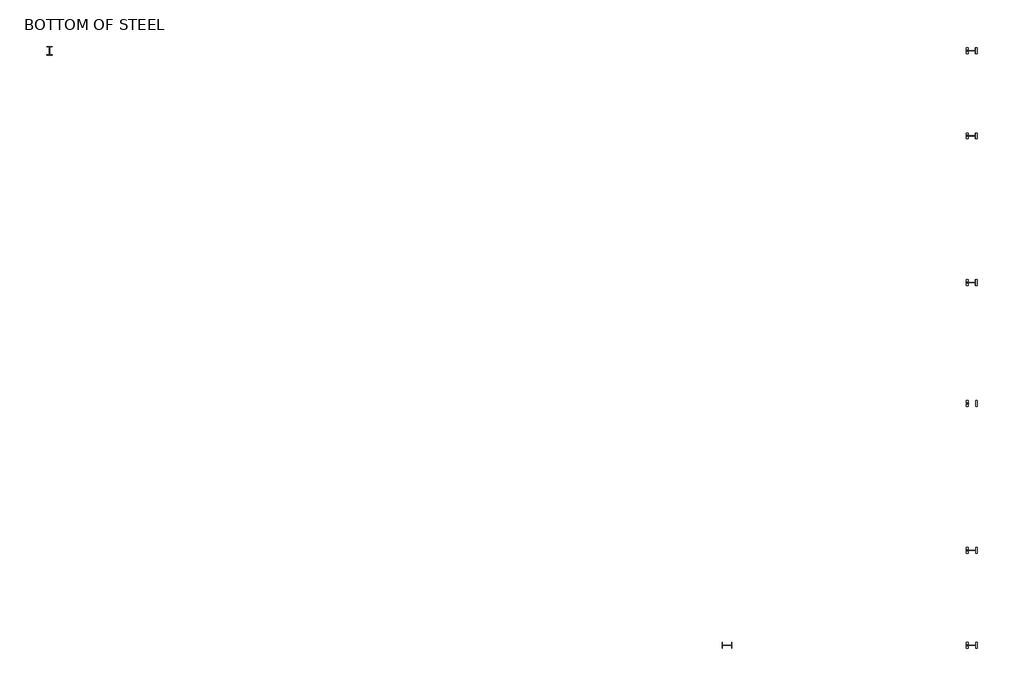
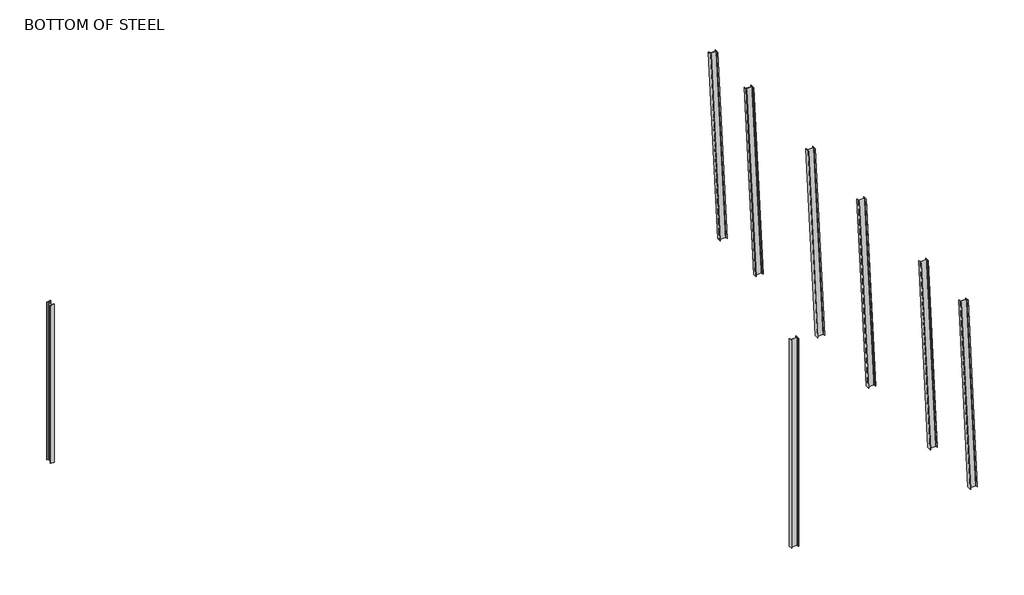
# One storey: 8 columns.
"""IFC4 building model written with IfcOpenShell, lengths in millimetres."""

from ifc_helpers import new_model, si_unit, point, frame, frame_2d, origin, place, context, project, spatial, polyline, circle_curve, ellipse_curve, trimmed, segment, composite_curve, outline, extrude, transform, mapped, element, save
from ifc_brep_helpers import plane_surface, revolved_surface, advanced_brep
from components import w_wide_flange_column_w12x40_d1cfc84d

model = new_model("IFC4")

# Units and contexts
model_context = context("Model", 3, world=origin())
ifc_project = project(units=[si_unit("LENGTHUNIT", "METRE", prefix="MILLI")], contexts=[model_context])

# Site, building, storey
site = spatial("IfcSite", under=ifc_project)
building = spatial("IfcBuilding", under=site)
storey = spatial("IfcBuildingStorey", under=building, Name="BOTTOM OF STEEL", Elevation=30302.2)

# Columns
placement = place(None, origin())
w_wide_flange_column_w12x40_shape = w_wide_flange_column_w12x40_d1cfc84d(model_context)
element("IfcColumn", 1, ObjectType="W-Wide Flange-Column : W12X40", at=placement, inside=storey, context=model_context, shape_type="MappedRepresentation", body=[
    mapped(w_wide_flange_column_w12x40_shape, transform((-10327.3204607, 7843.2445005, 0.0), x_axis=(-1.0000000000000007, 0.0, 0.0), y_axis=(0.0, -1.0000000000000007, 0.0), z_axis=(0.0, 0.0, 1.0))),
])
element("IfcColumn", 2, ObjectType="W-Wide Flange-Column : W14X43", at=placement, inside=storey, context=model_context, shape_type="SweptSolid", body=[
    extrude(outline(composite_curve([segment(polyline([(13394.2455549, -13038.8297182), (13407.7393049, -13038.8297182), (13407.7393049, -13115.0793276)]), True, "CONTINUOUS"), segment(trimmed(circle_curve(frame_2d((13429.1705549, -13115.0793276)), 21.43125), [point((13407.7393049, -13115.0793276))], [point((13429.1705549, -13136.5105776))], True, "CARTESIAN"), True, "CONTINUOUS"), segment(polyline([(13429.1705549, -13136.5105776), (13706.2885237, -13136.5105776)]), True, "CONTINUOUS"), segment(trimmed(circle_curve(frame_2d((13706.2885237, -13115.0793276)), 21.43125), [point((13706.2885237, -13136.5105776))], [point((13727.7197737, -13115.0793276))], True, "CARTESIAN"), True, "CONTINUOUS"), segment(polyline([(13727.7197737, -13115.0793276), (13727.7197737, -13038.8297182), (13741.2135237, -13038.8297182), (13741.2135237, -13241.9304995), (13727.7197737, -13241.9304995), (13727.7197737, -13165.6808901)]), True, "CONTINUOUS"), segment(trimmed(circle_curve(frame_2d((13706.2885237, -13165.6808901)), 21.43125), [point((13727.7197737, -13165.6808901))], [point((13706.2885237, -13144.2496401))], True, "CARTESIAN"), True, "CONTINUOUS"), segment(polyline([(13706.2885237, -13144.2496401), (13429.1705549, -13144.2496401)]), True, "CONTINUOUS"), segment(trimmed(circle_curve(frame_2d((13429.1705549, -13165.6808901)), 21.43125), [point((13429.1705549, -13144.2496401))], [point((13407.7393049, -13165.6808901))], True, "CARTESIAN"), True, "CONTINUOUS"), segment(polyline([(13407.7393049, -13165.6808901), (13407.7393049, -13241.9304995), (13394.2455549, -13241.9304995), (13394.2455549, -13038.8297182)]), True, "CONTINUOUS")], self_intersect=False)), frame((0.0, 0.0, 30302.2), z_axis=(0.0, 0.0, 1.0), x_axis=(1.0, 0.0, 0.0)), (0.0, 0.0, 1.0), 10644.6210144),
])
element("IfcColumn", 3, ObjectType="W-Wide Flange-Column : W14X43", at=placement, inside=storey, context=model_context, shape_type="AdvancedBrep", body=[
    advanced_brep(
    [(21930.12554, 7741.6941099, 40027.5112532), (21943.6342318, 7741.6941099, 40027.5112532), (21943.6342318, 7944.7948911, 40027.5112532), (21930.12554, 7944.7948911, 40027.5112532), (21930.12554, 7868.5452818, 40027.5112532), (21908.6705591, 7847.1140318, 40027.5112532), (21631.2457358, 7847.1140318, 40027.5112532), (21609.7907548, 7868.5452818, 40027.5112532), (21609.7907548, 7944.7948911, 40027.5112532), (21596.2820631, 7944.7948911, 40027.5112532), (21596.2820631, 7741.6941099, 40027.5112532), (21609.7907548, 7741.6941099, 40027.5112532), (21609.7907548, 7817.9437193, 40027.5112532), (21631.2457358, 7839.3749693, 40027.5112532), (21908.6705591, 7839.3749693, 40027.5112532), (21930.12554, 7817.9437193, 40027.5112532), (22401.0399532, 7741.6941099, 30310.5057441), (22387.5611284, 7741.6941099, 30309.8712594), (22387.5611284, 7817.9437193, 30309.8712594), (22366.1535831, 7839.3749693, 30308.8635484), (22089.3421295, 7839.3749693, 30295.8332848), (22067.9345842, 7817.9437193, 30294.8255738), (22067.9345842, 7741.6941099, 30294.8255738), (22054.4557594, 7741.6941099, 30294.1910891), (22054.4557594, 7944.7948911, 30294.1910891), (22067.9345842, 7944.7948911, 30294.8255738), (22067.9345842, 7868.5452818, 30294.8255738), (22089.3421295, 7847.1140318, 30295.8332848), (22366.1535831, 7847.1140318, 30308.8635484), (22387.5611284, 7868.5452818, 30309.8712594), (22387.5611284, 7944.7948911, 30309.8712594), (22401.0399532, 7944.7948911, 30310.5057441)],
    [
        (0, 1),
        (1, 2),
        (2, 3),
        (3, 4),
        (4, 5, ellipse_curve(frame((21908.6705591, 7868.5452818, 40027.5112532), z_axis=(0.0, 0.0, -1.0), x_axis=(1.0, 0.0, 0.0)), 21.454981, 21.43125)),
        (5, 6),
        (6, 7, ellipse_curve(frame((21631.2457358, 7868.5452818, 40027.5112532), z_axis=(0.0, 0.0, -1.0), x_axis=(1.0, 0.0, 0.0)), 21.454981, 21.43125)),
        (7, 8),
        (8, 9),
        (9, 10),
        (10, 11),
        (11, 12),
        (12, 13, ellipse_curve(frame((21631.2457358, 7817.9437193, 40027.5112532), z_axis=(0.0, 0.0, -1.0), x_axis=(1.0, 0.0, 0.0)), 21.454981, 21.43125)),
        (13, 14),
        (14, 15, ellipse_curve(frame((21908.6705591, 7817.9437193, 40027.5112532), z_axis=(0.0, 0.0, -1.0), x_axis=(1.0, 0.0, 0.0)), 21.454981, 21.43125)),
        (15, 0),
        (16, 17),
        (17, 18),
        (18, 19, circle_curve(frame((22366.1535831, 7817.9437193, 30308.8635484), z_axis=(-0.0470206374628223, 0.0, 0.9988939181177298), x_axis=(0.0, -1.0, 0.0)), 21.43125)),
        (19, 20),
        (20, 21, circle_curve(frame((22089.3421295, 7817.9437193, 30295.8332848), z_axis=(-0.0470206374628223, 0.0, 0.9988939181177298), x_axis=(0.0, -1.0, 0.0)), 21.43125)),
        (21, 22),
        (22, 23),
        (23, 24),
        (24, 25),
        (25, 26),
        (26, 27, circle_curve(frame((22089.3421295, 7868.5452818, 30295.8332848), z_axis=(-0.0470206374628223, 0.0, 0.9988939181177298), x_axis=(0.0, -1.0, 0.0)), 21.43125)),
        (27, 28),
        (28, 29, circle_curve(frame((22366.1535831, 7868.5452818, 30308.8635484), z_axis=(-0.0470206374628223, 0.0, 0.9988939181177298), x_axis=(0.0, -1.0, 0.0)), 21.43125)),
        (29, 30),
        (30, 31),
        (31, 16),
        (0, 17),
        (16, 1),
        (15, 18),
        (14, 19),
        (13, 20),
        (12, 21),
        (11, 22),
        (10, 23),
        (9, 24),
        (8, 25),
        (7, 26),
        (6, 27),
        (5, 28),
        (4, 29),
        (3, 30),
        (2, 31),
    ],
    [
        plane_surface(frame((21632.4522163, -14144.6665525, 40027.5112532), z_axis=(0.0, 0.0, 1.0), x_axis=(-1.0, 0.0, 0.0))),
        plane_surface(frame((22401.0399532, 7944.7948911, 30310.5057441), z_axis=(0.0470206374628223, 0.0, -0.9988939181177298), x_axis=(0.0, -1.0, 0.0))),
        plane_surface(frame((21910.8462782, 7741.6941099, 40437.074764), z_axis=(0.0, -1.0, 0.0), x_axis=(0.0470206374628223, 0.0, -0.9988939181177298))),
        plane_surface(frame((21910.8462782, 7817.9437193, 40437.074764), z_axis=(-0.9988939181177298, 0.0, -0.0470206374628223), x_axis=(0.0470206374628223, 0.0, -0.9988939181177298))),
        revolved_surface(polyline([(22366.153583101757, 7796.512469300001, 30308.863548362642), (21908.623123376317, 7796.512469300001, 40028.518964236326)]), (22366.1535831, 7817.9437193, 30308.8635484), (0.0470206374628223, 0.0, -0.9988939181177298)),
        plane_surface(frame((21612.6272794, 7839.3749693, 40423.0367894), z_axis=(0.0, -1.0, 0.0), x_axis=(0.0470206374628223, 0.0, -0.9988939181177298))),
        revolved_surface(polyline([(22089.3421295, 7796.512469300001, 30295.8332848), (21631.198300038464, 7796.512469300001, 40028.51896423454)]), (22089.3421295, 7817.9437193, 30295.8332848), (0.0470206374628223, 0.0, -0.9988939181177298)),
        plane_surface(frame((21591.2197341, 7741.6941099, 40422.0290784), z_axis=(0.9988939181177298, 0.0, 0.0470206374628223), x_axis=(0.0470206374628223, 0.0, -0.9988939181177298))),
        plane_surface(frame((21577.7409093, 7741.6941099, 40421.3945936), z_axis=(0.0, -1.0, 0.0), x_axis=(0.0470206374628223, 0.0, -0.9988939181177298))),
        plane_surface(frame((21577.7409093, 7944.7948911, 40421.3945936), z_axis=(-0.9988939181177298, 0.0, -0.0470206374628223), x_axis=(0.0470206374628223, 0.0, -0.9988939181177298))),
        plane_surface(frame((21591.2197341, 7944.7948911, 40422.0290784), z_axis=(0.0, 1.0, 0.0), x_axis=(0.0470206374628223, 0.0, -0.9988939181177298))),
        plane_surface(frame((21591.2197341, 7868.5452818, 40422.0290784), z_axis=(0.9988939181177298, 0.0, 0.0470206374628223), x_axis=(0.0470206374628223, 0.0, -0.9988939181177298))),
        revolved_surface(polyline([(22089.3421295, 7847.114031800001, 30295.8332848), (21631.198300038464, 7847.114031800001, 40028.51896423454)]), (22089.3421295, 7868.5452818, 30295.8332848), (0.0470206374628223, 0.0, -0.9988939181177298)),
        plane_surface(frame((21889.438733, 7847.1140318, 40436.0670529), z_axis=(0.0, 1.0, 0.0), x_axis=(0.0470206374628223, 0.0, -0.9988939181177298))),
        revolved_surface(polyline([(22366.153583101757, 7847.114031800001, 30308.863548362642), (21908.623123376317, 7847.114031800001, 40028.518964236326)]), (22366.1535831, 7868.5452818, 30308.8635484), (0.0470206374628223, 0.0, -0.9988939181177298)),
        plane_surface(frame((21910.8462782, 7944.7948911, 40437.074764), z_axis=(-0.9988939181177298, 0.0, -0.0470206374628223), x_axis=(0.0470206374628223, 0.0, -0.9988939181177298))),
        plane_surface(frame((21924.325103, 7944.7948911, 40437.7092487), z_axis=(0.0, 1.0, 0.0), x_axis=(0.0470206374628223, 0.0, -0.9988939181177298))),
        plane_surface(frame((21924.325103, 7741.6941099, 40437.7092487), z_axis=(0.9988939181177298, 0.0, 0.0470206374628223), x_axis=(0.0470206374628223, 0.0, -0.9988939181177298))),
    ],
    [
        (0, [[1, 2, 3, 4, 5, 6, 7, 8, 9, 10, 11, 12, 13, 14, 15, 16]]),
        (1, [[17, 18, 19, 20, 21, 22, 23, 24, 25, 26, 27, 28, 29, 30, 31, 32]]),
        (2, [[33, -17, 34, -1]]),
        (3, [[35, -18, -33, -16]]),
        (4, [[36, -19, -35, -15]]),
        (5, [[37, -20, -36, -14]]),
        (6, [[38, -21, -37, -13]]),
        (7, [[39, -22, -38, -12]]),
        (8, [[40, -23, -39, -11]]),
        (9, [[41, -24, -40, -10]]),
        (10, [[42, -25, -41, -9]]),
        (11, [[43, -26, -42, -8]]),
        (12, [[44, -27, -43, -7]]),
        (13, [[45, -28, -44, -6]]),
        (14, [[46, -29, -45, -5]]),
        (15, [[47, -30, -46, -4]]),
        (16, [[48, -31, -47, -3]]),
        (17, [[-34, -32, -48, -2]]),
    ],
),
])
element("IfcColumn", 4, ObjectType="W-Wide Flange-Column : W14X43", at=placement, inside=storey, context=model_context, shape_type="AdvancedBrep", body=[
    advanced_brep(
    [(21943.634166, 4741.2695005, 40029.1771213), (21943.634166, 4944.3702818, 40029.1771213), (21930.1254794, 4944.3702818, 40029.1771213), (21930.1254794, 4868.1206724, 40029.1771213), (21908.6705066, 4846.6894224, 40029.1771213), (21631.2457883, 4846.6894224, 40029.1771213), (21609.7908154, 4868.1206724, 40029.1771213), (21609.7908154, 4944.3702818, 40029.1771213), (21596.2821288, 4944.3702818, 40029.1771213), (21596.2821288, 4741.2695005, 40029.1771213), (21609.7908154, 4741.2695005, 40029.1771213), (21609.7908154, 4817.5191099, 40029.1771213), (21631.2457883, 4838.9503599, 40029.1771213), (21908.6705066, 4838.9503599, 40029.1771213), (21930.1254794, 4817.5191099, 40029.1771213), (21930.1254794, 4741.2695005, 40029.1771213), (22401.0400188, 4741.2695005, 30310.5043501), (22387.5611889, 4741.2695005, 30309.8699738), (22387.5611889, 4817.5191099, 30309.8699738), (22366.1536355, 4838.9503599, 30308.862435), (22089.3420771, 4838.9503599, 30295.8343982), (22067.9345237, 4817.5191099, 30294.8268593), (22067.9345237, 4741.2695005, 30294.8268593), (22054.4556938, 4741.2695005, 30294.192483), (22054.4556938, 4944.3702818, 30294.192483), (22067.9345237, 4944.3702818, 30294.8268593), (22067.9345237, 4868.1206724, 30294.8268593), (22089.3420771, 4846.6894224, 30295.8343982), (22366.1536355, 4846.6894224, 30308.862435), (22387.5611889, 4868.1206724, 30309.8699738), (22387.5611889, 4944.3702818, 30309.8699738), (22401.0400188, 4944.3702818, 30310.5043501)],
    [
        (0, 1),
        (1, 2),
        (2, 3),
        (3, 4, ellipse_curve(frame((21908.6705066, 4868.1206724, 40029.1771213), z_axis=(0.0, 0.0, -1.0), x_axis=(1.0, 0.0, 0.0)), 21.4549728, 21.43125)),
        (4, 5),
        (5, 6, ellipse_curve(frame((21631.2457883, 4868.1206724, 40029.1771213), z_axis=(0.0, 0.0, -1.0), x_axis=(1.0, 0.0, 0.0)), 21.4549728, 21.43125)),
        (6, 7),
        (7, 8),
        (8, 9),
        (9, 10),
        (10, 11),
        (11, 12, ellipse_curve(frame((21631.2457883, 4817.5191099, 40029.1771213), z_axis=(0.0, 0.0, -1.0), x_axis=(1.0, 0.0, 0.0)), 21.4549728, 21.43125)),
        (12, 13),
        (13, 14, ellipse_curve(frame((21908.6705066, 4817.5191099, 40029.1771213), z_axis=(0.0, 0.0, -1.0), x_axis=(1.0, 0.0, 0.0)), 21.4549728, 21.43125)),
        (14, 15),
        (15, 0),
        (16, 17),
        (17, 18),
        (18, 19, circle_curve(frame((22366.1536355, 4817.5191099, 30308.862435), z_axis=(-0.04701260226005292, 0.0, 0.9988942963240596), x_axis=(0.0, -1.0, 0.0)), 21.43125)),
        (19, 20),
        (20, 21, circle_curve(frame((22089.3420771, 4817.5191099, 30295.8343982), z_axis=(-0.04701260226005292, 0.0, 0.9988942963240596), x_axis=(0.0, -1.0, 0.0)), 21.43125)),
        (21, 22),
        (22, 23),
        (23, 24),
        (24, 25),
        (25, 26),
        (26, 27, circle_curve(frame((22089.3420771, 4868.1206724, 30295.8343982), z_axis=(-0.04701260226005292, 0.0, 0.9988942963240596), x_axis=(0.0, -1.0, 0.0)), 21.43125)),
        (27, 28),
        (28, 29, circle_curve(frame((22366.1536355, 4868.1206724, 30308.862435), z_axis=(-0.04701260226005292, 0.0, 0.9988942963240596), x_axis=(0.0, -1.0, 0.0)), 21.43125)),
        (29, 30),
        (30, 31),
        (31, 16),
        (15, 17),
        (16, 0),
        (14, 18),
        (13, 19),
        (12, 20),
        (11, 21),
        (10, 22),
        (9, 23),
        (8, 24),
        (7, 25),
        (6, 26),
        (5, 27),
        (4, 28),
        (3, 29),
        (2, 30),
        (1, 31),
    ],
    [
        plane_surface(frame((21769.9581474, 4842.8198911, 40029.1771213), z_axis=(0.0, 0.0, 1.0), x_axis=(-1.0, 0.0, 0.0))),
        plane_surface(frame((22401.0400188, 4944.3702818, 30310.5043501), z_axis=(0.04701260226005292, 0.0, -0.9988942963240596), x_axis=(0.0, -1.0, 0.0))),
        plane_surface(frame((21910.84958, 4741.2695005, 40438.7393465), z_axis=(0.0, -1.0, 0.0), x_axis=(0.04701260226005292, 0.0, -0.9988942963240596))),
        plane_surface(frame((21910.84958, 4817.5191099, 40438.7393465), z_axis=(-0.9988942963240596, 0.0, -0.04701260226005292), x_axis=(0.04701260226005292, 0.0, -0.9988942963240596))),
        revolved_surface(polyline([(22366.153635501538, 4796.087859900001, 30308.862434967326), (21908.623087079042, 4796.087859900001, 40030.18466012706)]), (22366.1536355, 4817.5191099, 30308.862435), (0.04701260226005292, 0.0, -0.9988942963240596)),
        plane_surface(frame((21612.6304682, 4838.9503599, 40424.7037709), z_axis=(0.0, -1.0, 0.0), x_axis=(0.04701260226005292, 0.0, -0.9988942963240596))),
        revolved_surface(polyline([(22089.342077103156, 4796.087859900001, 30295.834398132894), (21631.198368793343, 4796.087859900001, 40030.184660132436)]), (22089.3420771, 4817.5191099, 30295.8343982), (0.04701260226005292, 0.0, -0.9988942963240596)),
        plane_surface(frame((21591.2229148, 4741.2695005, 40423.696232), z_axis=(0.9988942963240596, 0.0, 0.04701260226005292), x_axis=(0.04701260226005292, 0.0, -0.9988942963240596))),
        plane_surface(frame((21577.7440849, 4741.2695005, 40423.0618557), z_axis=(0.0, -1.0, 0.0), x_axis=(0.04701260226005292, 0.0, -0.9988942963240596))),
        plane_surface(frame((21577.7440849, 4944.3702818, 40423.0618557), z_axis=(-0.9988942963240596, 0.0, -0.04701260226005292), x_axis=(0.04701260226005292, 0.0, -0.9988942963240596))),
        plane_surface(frame((21591.2229148, 4944.3702818, 40423.696232), z_axis=(0.0, 1.0, 0.0), x_axis=(0.04701260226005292, 0.0, -0.9988942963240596))),
        plane_surface(frame((21591.2229148, 4868.1206724, 40423.696232), z_axis=(0.9988942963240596, 0.0, 0.04701260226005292), x_axis=(0.04701260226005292, 0.0, -0.9988942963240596))),
        revolved_surface(polyline([(22089.342077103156, 4846.689422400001, 30295.834398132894), (21631.198368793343, 4846.689422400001, 40030.184660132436)]), (22089.3420771, 4868.1206724, 30295.8343982), (0.04701260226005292, 0.0, -0.9988942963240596)),
        plane_surface(frame((21889.4420266, 4846.6894224, 40437.7318077), z_axis=(0.0, 1.0, 0.0), x_axis=(0.04701260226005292, 0.0, -0.9988942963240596))),
        revolved_surface(polyline([(22366.153635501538, 4846.689422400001, 30308.862434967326), (21908.623087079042, 4846.689422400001, 40030.18466012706)]), (22366.1536355, 4868.1206724, 30308.862435), (0.04701260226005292, 0.0, -0.9988942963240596)),
        plane_surface(frame((21910.84958, 4944.3702818, 40438.7393465), z_axis=(-0.9988942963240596, 0.0, -0.04701260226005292), x_axis=(0.04701260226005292, 0.0, -0.9988942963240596))),
        plane_surface(frame((21924.3284099, 4944.3702818, 40439.3737228), z_axis=(0.0, 1.0, 0.0), x_axis=(0.04701260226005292, 0.0, -0.9988942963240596))),
        plane_surface(frame((21924.3284099, 4741.2695005, 40439.3737228), z_axis=(0.9988942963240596, 0.0, 0.04701260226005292), x_axis=(0.04701260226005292, 0.0, -0.9988942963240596))),
    ],
    [
        (0, [[1, 2, 3, 4, 5, 6, 7, 8, 9, 10, 11, 12, 13, 14, 15, 16]]),
        (1, [[17, 18, 19, 20, 21, 22, 23, 24, 25, 26, 27, 28, 29, 30, 31, 32]]),
        (2, [[33, -17, 34, -16]]),
        (3, [[35, -18, -33, -15]]),
        (4, [[36, -19, -35, -14]]),
        (5, [[37, -20, -36, -13]]),
        (6, [[38, -21, -37, -12]]),
        (7, [[39, -22, -38, -11]]),
        (8, [[40, -23, -39, -10]]),
        (9, [[41, -24, -40, -9]]),
        (10, [[42, -25, -41, -8]]),
        (11, [[43, -26, -42, -7]]),
        (12, [[44, -27, -43, -6]]),
        (13, [[45, -28, -44, -5]]),
        (14, [[46, -29, -45, -4]]),
        (15, [[47, -30, -46, -3]]),
        (16, [[48, -31, -47, -2]]),
        (17, [[-34, -32, -48, -1]]),
    ],
),
])
element("IfcColumn", 5, ObjectType="W-Wide Flange-Column : W14X43", at=placement, inside=storey, context=model_context, shape_type="AdvancedBrep", body=[
    advanced_brep(
    [(21943.2503099, -440.2312807, 40037.3330549), (21943.2503099, -237.1304995, 40037.3330549), (21929.7416233, -237.1304995, 40037.3330549), (21929.7416233, -313.3801089, 40037.3330549), (21908.2866505, -334.8113589, 40037.3330549), (21630.8619322, -334.8113589, 40037.3330549), (21609.4069593, -313.3801089, 40037.3330549), (21609.4069593, -237.1304995, 40037.3330549), (21595.8982727, -237.1304995, 40037.3330549), (21595.8982727, -440.2312807, 40037.3330549), (21609.4069593, -440.2312807, 40037.3330549), (21609.4069593, -363.9816714, 40037.3330549), (21630.8619322, -342.5504214, 40037.3330549), (21908.2866505, -342.5504214, 40037.3330549), (21929.7416233, -363.9816714, 40037.3330549), (21929.7416233, -440.2312807, 40037.3330549), (22401.0400188, -440.2312807, 30310.5043501), (22387.5611889, -440.2312807, 30309.8699738), (22387.5611889, -363.9816714, 30309.8699738), (22366.1536355, -342.5504214, 30308.862435), (22089.3420771, -342.5504214, 30295.8343982), (22067.9345237, -363.9816714, 30294.8268593), (22067.9345237, -440.2312807, 30294.8268593), (22054.4556938, -440.2312807, 30294.192483), (22054.4556938, -237.1304995, 30294.192483), (22067.9345237, -237.1304995, 30294.8268593), (22067.9345237, -313.3801089, 30294.8268593), (22089.3420771, -334.8113589, 30295.8343982), (22366.1536355, -334.8113589, 30308.862435), (22387.5611889, -313.3801089, 30309.8699738), (22387.5611889, -237.1304995, 30309.8699738), (22401.0400188, -237.1304995, 30310.5043501)],
    [
        (0, 1),
        (1, 2),
        (2, 3),
        (3, 4, ellipse_curve(frame((21908.2866505, -313.3801089, 40037.3330549), z_axis=(0.0, 0.0, -1.0), x_axis=(1.0, 0.0, 0.0)), 21.4549728, 21.43125)),
        (4, 5),
        (5, 6, ellipse_curve(frame((21630.8619322, -313.3801089, 40037.3330549), z_axis=(0.0, 0.0, -1.0), x_axis=(1.0, 0.0, 0.0)), 21.4549728, 21.43125)),
        (6, 7),
        (7, 8),
        (8, 9),
        (9, 10),
        (10, 11),
        (11, 12, ellipse_curve(frame((21630.8619322, -363.9816714, 40037.3330549), z_axis=(0.0, 0.0, -1.0), x_axis=(1.0, 0.0, 0.0)), 21.4549728, 21.43125)),
        (12, 13),
        (13, 14, ellipse_curve(frame((21908.2866505, -363.9816714, 40037.3330549), z_axis=(0.0, 0.0, -1.0), x_axis=(1.0, 0.0, 0.0)), 21.4549728, 21.43125)),
        (14, 15),
        (15, 0),
        (16, 17),
        (17, 18),
        (18, 19, circle_curve(frame((22366.1536355, -363.9816714, 30308.862435), z_axis=(-0.04701260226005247, 0.0, 0.9988942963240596), x_axis=(0.0, -1.0, 0.0)), 21.43125)),
        (19, 20),
        (20, 21, circle_curve(frame((22089.3420771, -363.9816714, 30295.8343982), z_axis=(-0.04701260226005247, 0.0, 0.9988942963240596), x_axis=(0.0, -1.0, 0.0)), 21.43125)),
        (21, 22),
        (22, 23),
        (23, 24),
        (24, 25),
        (25, 26),
        (26, 27, circle_curve(frame((22089.3420771, -313.3801089, 30295.8343982), z_axis=(-0.04701260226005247, 0.0, 0.9988942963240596), x_axis=(0.0, -1.0, 0.0)), 21.43125)),
        (27, 28),
        (28, 29, circle_curve(frame((22366.1536355, -313.3801089, 30308.862435), z_axis=(-0.04701260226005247, 0.0, 0.9988942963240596), x_axis=(0.0, -1.0, 0.0)), 21.43125)),
        (29, 30),
        (30, 31),
        (31, 16),
        (15, 17),
        (16, 0),
        (14, 18),
        (13, 19),
        (12, 20),
        (11, 21),
        (10, 22),
        (9, 23),
        (8, 24),
        (7, 25),
        (6, 26),
        (5, 27),
        (4, 28),
        (3, 29),
        (2, 30),
        (1, 31),
    ],
    [
        plane_surface(frame((21769.9581474, -338.6808901, 40037.3330549), z_axis=(0.0, 0.0, 1.0), x_axis=(-1.0, 0.0, 0.0))),
        plane_surface(frame((22401.0400188, -237.1304995, 30310.5043501), z_axis=(0.04701260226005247, 0.0, -0.9988942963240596), x_axis=(0.0, -1.0, 0.0))),
        plane_surface(frame((21910.49831, -440.2312807, 40446.2029096), z_axis=(0.0, -1.0, 0.0), x_axis=(0.04701260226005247, 0.0, -0.9988942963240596))),
        plane_surface(frame((21910.49831, -363.9816714, 40446.2029096), z_axis=(-0.9988942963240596, 0.0, -0.04701260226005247), x_axis=(0.04701260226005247, 0.0, -0.9988942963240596))),
        revolved_surface(polyline([(22366.153635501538, -385.41292139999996, 30308.862434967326), (21908.239230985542, -385.41292139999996, 40038.340593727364)]), (22366.1536355, -363.9816714, 30308.862435), (0.04701260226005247, 0.0, -0.9988942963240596)),
        plane_surface(frame((21612.2791983, -342.5504214, 40432.1673339), z_axis=(0.0, -1.0, 0.0), x_axis=(0.04701260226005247, 0.0, -0.9988942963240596))),
        revolved_surface(polyline([(22089.342077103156, -385.41292139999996, 30295.834398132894), (21630.814512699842, -385.41292139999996, 40038.34059373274)]), (22089.3420771, -363.9816714, 30295.8343982), (0.04701260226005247, 0.0, -0.9988942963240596)),
        plane_surface(frame((21590.8716449, -440.2312807, 40431.1597951), z_axis=(0.9988942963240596, 0.0, 0.04701260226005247), x_axis=(0.04701260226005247, 0.0, -0.9988942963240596))),
        plane_surface(frame((21577.392815, -440.2312807, 40430.5254188), z_axis=(0.0, -1.0, 0.0), x_axis=(0.04701260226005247, 0.0, -0.9988942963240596))),
        plane_surface(frame((21577.392815, -237.1304995, 40430.5254188), z_axis=(-0.9988942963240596, 0.0, -0.04701260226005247), x_axis=(0.04701260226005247, 0.0, -0.9988942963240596))),
        plane_surface(frame((21590.8716449, -237.1304995, 40431.1597951), z_axis=(0.0, 1.0, 0.0), x_axis=(0.04701260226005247, 0.0, -0.9988942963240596))),
        plane_surface(frame((21590.8716449, -313.3801089, 40431.1597951), z_axis=(0.9988942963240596, 0.0, 0.04701260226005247), x_axis=(0.04701260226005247, 0.0, -0.9988942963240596))),
        revolved_surface(polyline([(22089.342077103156, -334.81135889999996, 30295.834398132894), (21630.814512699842, -334.81135889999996, 40038.34059373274)]), (22089.3420771, -313.3801089, 30295.8343982), (0.04701260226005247, 0.0, -0.9988942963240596)),
        plane_surface(frame((21889.0907567, -334.8113589, 40445.1953708), z_axis=(0.0, 1.0, 0.0), x_axis=(0.04701260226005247, 0.0, -0.9988942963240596))),
        revolved_surface(polyline([(22366.153635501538, -334.81135889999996, 30308.862434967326), (21908.239230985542, -334.81135889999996, 40038.340593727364)]), (22366.1536355, -313.3801089, 30308.862435), (0.04701260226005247, 0.0, -0.9988942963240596)),
        plane_surface(frame((21910.49831, -237.1304995, 40446.2029096), z_axis=(-0.9988942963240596, 0.0, -0.04701260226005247), x_axis=(0.04701260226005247, 0.0, -0.9988942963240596))),
        plane_surface(frame((21923.97714, -237.1304995, 40446.8372859), z_axis=(0.0, 1.0, 0.0), x_axis=(0.04701260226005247, 0.0, -0.9988942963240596))),
        plane_surface(frame((21923.97714, -440.2312807, 40446.8372859), z_axis=(0.9988942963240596, 0.0, 0.04701260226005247), x_axis=(0.04701260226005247, 0.0, -0.9988942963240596))),
    ],
    [
        (0, [[1, 2, 3, 4, 5, 6, 7, 8, 9, 10, 11, 12, 13, 14, 15, 16]]),
        (1, [[17, 18, 19, 20, 21, 22, 23, 24, 25, 26, 27, 28, 29, 30, 31, 32]]),
        (2, [[33, -17, 34, -16]]),
        (3, [[35, -18, -33, -15]]),
        (4, [[36, -19, -35, -14]]),
        (5, [[37, -20, -36, -13]]),
        (6, [[38, -21, -37, -12]]),
        (7, [[39, -22, -38, -11]]),
        (8, [[40, -23, -39, -10]]),
        (9, [[41, -24, -40, -9]]),
        (10, [[42, -25, -41, -8]]),
        (11, [[43, -26, -42, -7]]),
        (12, [[44, -27, -43, -6]]),
        (13, [[45, -28, -44, -5]]),
        (14, [[46, -29, -45, -4]]),
        (15, [[47, -30, -46, -3]]),
        (16, [[48, -31, -47, -2]]),
        (17, [[-34, -32, -48, -1]]),
    ],
),
])
element("IfcColumn", 6, ObjectType="W-Wide Flange-Column : W14X43", at=placement, inside=storey, context=model_context, shape_type="AdvancedBrep", body=[
    advanced_brep(
    [(21945.3620327, -4707.5295172, 40037.0596884), (21945.3611602, -4504.428736, 40037.0933905), (21931.8526101, -4504.428689, 40037.0933938), (21931.8529376, -4580.6782984, 40037.0807411), (21910.3982735, -4602.1094738, 40037.0771902), (21632.9763574, -4602.1085088, 40037.0772586), (21611.5215092, -4580.6771841, 40037.0808202), (21611.5211816, -4504.4275748, 40037.0934729), (21598.0126315, -4504.4275278, 40037.0934762), (21598.0135039, -4707.528309, 40037.0597741), (21611.5220541, -4707.528356, 40037.0597708), (21611.5217265, -4631.2787466, 40037.0724235), (21632.9763906, -4609.8475713, 40037.0759744), (21910.3983068, -4609.8485363, 40037.075906), (21931.853155, -4631.2798609, 40037.0723444), (21931.8534825, -4707.5294703, 40037.0596917), (22401.0414179, -4707.5311023, 30310.467032), (22387.5624517, -4707.5310554, 30309.8355583), (22387.5627169, -4631.281446, 30309.8355583), (22366.1550216, -4609.8501215, 30308.8326295), (22089.3406641, -4609.8491587, 30295.8642036), (22067.9328197, -4631.2803342, 30294.8612749), (22067.9325545, -4707.5299436, 30294.8612749), (22054.4535883, -4707.5298967, 30294.2298012), (22054.4542947, -4504.4291155, 30294.2298012), (22067.9332609, -4504.4291623, 30294.8612749), (22067.9329957, -4580.6787717, 30294.8612749), (22089.340691, -4602.1100962, 30295.8642036), (22366.1550485, -4602.111059, 30308.8326295), (22387.562893, -4580.6798835, 30309.8355583), (22387.5631582, -4504.4302741, 30309.8355583), (22401.0421244, -4504.430321, 30310.467032)],
    [
        (0, 1),
        (1, 2),
        (2, 3),
        (3, 4, ellipse_curve(frame((21910.3981815, -4580.6782238, 40037.0807464), z_axis=(-2.461860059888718e-07, 0.00016593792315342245, -0.9999999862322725), x_axis=(0.9999937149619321, -0.003545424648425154, -8.345048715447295e-07)), 21.4547564, 21.43125)),
        (4, 5),
        (5, 6, ellipse_curve(frame((21632.9762653, -4580.6772588, 40037.0808149), z_axis=(-2.461860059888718e-07, 0.00016593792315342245, -0.9999999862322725), x_axis=(0.9999937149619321, -0.003545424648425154, -8.345048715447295e-07)), 21.4547564, 21.43125)),
        (6, 7),
        (7, 8),
        (8, 9),
        (9, 10),
        (10, 11),
        (11, 12, ellipse_curve(frame((21632.9764827, -4631.2788213, 40037.0724182), z_axis=(-2.461860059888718e-07, 0.00016593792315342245, -0.9999999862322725), x_axis=(0.9999937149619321, -0.003545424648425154, -8.345048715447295e-07)), 21.4547564, 21.43125)),
        (12, 13),
        (13, 14, ellipse_curve(frame((21910.3983988, -4631.2797863, 40037.0723497), z_axis=(-2.461860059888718e-07, 0.00016593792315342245, -0.9999999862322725), x_axis=(0.9999937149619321, -0.003545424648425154, -8.345048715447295e-07)), 21.4547564, 21.43125)),
        (14, 15),
        (15, 0),
        (16, 17),
        (17, 18),
        (18, 19, circle_curve(frame((22366.1549471, -4631.2813715, 30308.8326295), z_axis=(-0.04679749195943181, 1.6277925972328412e-07, 0.9989043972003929), x_axis=(-3.4783757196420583e-06, -0.9999999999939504, 0.0)), 21.43125)),
        (19, 20),
        (20, 21, circle_curve(frame((22089.3405896, -4631.2804087, 30295.8642036), z_axis=(-0.04679749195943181, 1.6277925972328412e-07, 0.9989043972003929), x_axis=(-3.4783757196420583e-06, -0.9999999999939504, 0.0)), 21.43125)),
        (21, 22),
        (22, 23),
        (23, 24),
        (24, 25),
        (25, 26),
        (26, 27, circle_curve(frame((22089.3407656, -4580.6788462, 30295.8642036), z_axis=(-0.04679749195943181, 1.6277925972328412e-07, 0.9989043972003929), x_axis=(-3.4783757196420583e-06, -0.9999999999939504, 0.0)), 21.43125)),
        (27, 28),
        (28, 29, circle_curve(frame((22366.1551231, -4580.679809, 30308.8326295), z_axis=(-0.04679749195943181, 1.6277925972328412e-07, 0.9989043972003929), x_axis=(-3.4783757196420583e-06, -0.9999999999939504, 0.0)), 21.43125)),
        (29, 30),
        (30, 31),
        (31, 16),
        (15, 17),
        (16, 0),
        (14, 18),
        (13, 19),
        (12, 20),
        (11, 21),
        (10, 22),
        (9, 23),
        (8, 24),
        (7, 25),
        (6, 26),
        (5, 27),
        (4, 28),
        (3, 29),
        (2, 30),
        (1, 31),
    ],
    [
        plane_surface(frame((21772.0684731, -4605.9798738, 40037.076582), z_axis=(2.461860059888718e-07, -0.00016593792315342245, 0.9999999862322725), x_axis=(-0.9999999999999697, -4.0851594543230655e-11, 2.461860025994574e-07))),
        plane_surface(frame((22401.0421244, -4504.430321, 30310.467032), z_axis=(0.046797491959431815, -1.6277925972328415e-07, -0.9989043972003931), x_axis=(-3.4783757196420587e-06, -0.9999999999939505, 0.0))),
        plane_surface(frame((21912.6667962, -4707.5294035, 40446.6044021), z_axis=(-3.4783757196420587e-06, -0.9999999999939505, 0.0), x_axis=(0.04679749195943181, -1.6277925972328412e-07, -0.9989043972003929))),
        plane_surface(frame((21912.6670615, -4631.2797941, 40446.6044021), z_axis=(-0.9989043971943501, 3.4745648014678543e-06, -0.046797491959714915), x_axis=(0.04679749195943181, -1.6277925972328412e-07, -0.9989043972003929))),
        revolved_surface(polyline([(22366.15487255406, -4652.712621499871, 30308.8326295), (21910.351337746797, -4652.711036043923, 40038.07529005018)]), (22366.1549471, -4631.2813715, 30308.8326295), (0.04679749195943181, -1.6277925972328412e-07, -0.9989043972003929)),
        plane_surface(frame((21614.4450086, -4609.8475068, 40432.6330475), z_axis=(-3.4783757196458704e-06, -0.9999999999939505, 0.0), x_axis=(0.04679749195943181, -1.6277925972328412e-07, -0.9989043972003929))),
        revolved_surface(polyline([(22089.34051505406, -4652.711658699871, 30295.8642036), (21632.929421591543, -4652.710071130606, 40038.07535854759)]), (22089.3405896, -4631.2804087, 30295.8642036), (0.04679749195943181, -1.6277925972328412e-07, -0.9989043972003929)),
        plane_surface(frame((21593.036899, -4707.5282917, 40431.6301187), z_axis=(0.9989043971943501, -3.4745648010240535e-06, 0.046797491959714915), x_axis=(0.04679749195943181, -1.6277925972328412e-07, -0.9989043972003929))),
        plane_surface(frame((21579.5579328, -4707.5282448, 40430.9986451), z_axis=(-3.4783757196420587e-06, -0.9999999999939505, 0.0), x_axis=(0.04679749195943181, -1.6277925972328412e-07, -0.9989043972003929))),
        plane_surface(frame((21579.5586392, -4504.4274636, 40430.9986451), z_axis=(-0.9989043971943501, 3.4745648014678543e-06, -0.046797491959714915), x_axis=(0.04679749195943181, -1.6277925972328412e-07, -0.9989043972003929))),
        plane_surface(frame((21593.0376055, -4504.4275105, 40431.6301187), z_axis=(3.4783757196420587e-06, 0.9999999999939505, 0.0), x_axis=(0.04679749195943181, -1.6277925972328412e-07, -0.9989043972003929))),
        plane_surface(frame((21593.0373402, -4580.6771199, 40431.6301187), z_axis=(0.9989043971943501, -3.4745648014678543e-06, 0.046797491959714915), x_axis=(0.04679749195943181, -1.6277925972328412e-07, -0.9989043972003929))),
        revolved_surface(polyline([(22089.34069105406, -4602.110096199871, 30295.8642036), (21632.92920421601, -4602.108508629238, 40038.08375524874)]), (22089.3407656, -4580.6788462, 30295.8642036), (0.04679749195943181, -1.6277925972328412e-07, -0.9989043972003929)),
        plane_surface(frame((21891.2593931, -4602.1094072, 40445.6014734), z_axis=(3.478375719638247e-06, 0.9999999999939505, 0.0), x_axis=(0.04679749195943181, -1.6277925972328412e-07, -0.9989043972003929))),
        revolved_surface(polyline([(22366.15504855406, -4602.111058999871, 30308.8326295), (21910.351120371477, -4602.109473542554, 40038.08368674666)]), (22366.1551231, -4580.679809, 30308.8326295), (0.04679749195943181, -1.6277925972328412e-07, -0.9989043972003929)),
        plane_surface(frame((21912.6675027, -4504.4286223, 40446.6044021), z_axis=(-0.9989043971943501, 3.4745648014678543e-06, -0.046797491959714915), x_axis=(0.04679749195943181, -1.6277925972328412e-07, -0.9989043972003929))),
        plane_surface(frame((21926.1464689, -4504.4286692, 40447.2358758), z_axis=(3.4783757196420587e-06, 0.9999999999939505, 0.0), x_axis=(0.04679749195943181, -1.6277925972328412e-07, -0.9989043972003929))),
        plane_surface(frame((21926.1457625, -4707.5294504, 40447.2358758), z_axis=(0.9989043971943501, -3.4745648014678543e-06, 0.046797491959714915), x_axis=(0.04679749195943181, -1.6277925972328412e-07, -0.9989043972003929))),
    ],
    [
        (0, [[1, 2, 3, 4, 5, 6, 7, 8, 9, 10, 11, 12, 13, 14, 15, 16]]),
        (1, [[17, 18, 19, 20, 21, 22, 23, 24, 25, 26, 27, 28, 29, 30, 31, 32]]),
        (2, [[33, -17, 34, -16]]),
        (3, [[35, -18, -33, -15]]),
        (4, [[36, -19, -35, -14]]),
        (5, [[37, -20, -36, -13]]),
        (6, [[38, -21, -37, -12]]),
        (7, [[39, -22, -38, -11]]),
        (8, [[40, -23, -39, -10]]),
        (9, [[41, -24, -40, -9]]),
        (10, [[42, -25, -41, -8]]),
        (11, [[43, -26, -42, -7]]),
        (12, [[44, -27, -43, -6]]),
        (13, [[45, -28, -44, -5]]),
        (14, [[46, -29, -45, -4]]),
        (15, [[47, -30, -46, -3]]),
        (16, [[48, -31, -47, -2]]),
        (17, [[-34, -32, -48, -1]]),
    ],
),
])
element("IfcColumn", 7, ObjectType="W-Wide Flange-Column : W14X43", at=placement, inside=storey, context=model_context, shape_type="AdvancedBrep", body=[
    advanced_brep(
    [(21953.4253268, -9889.0335685, 40028.0643692), (21953.4220805, -9685.9327873, 40028.0980713), (21939.9140227, -9685.9329, 40028.0980746), (21939.9152414, -9762.1825093, 40028.0854219), (21918.4616098, -9783.6139382, 40028.0818709), (21641.049805, -9783.6162518, 40028.0819388), (21619.5954883, -9762.1851807, 40028.0855003), (21619.5942696, -9685.9355713, 40028.098153), (21606.0862117, -9685.935684, 40028.0981563), (21606.089458, -9889.0364652, 40028.0644542), (21619.5975158, -9889.0363526, 40028.0644509), (21619.5962971, -9812.7867432, 40028.0771036), (21641.0499287, -9791.3553143, 40028.0806546), (21918.4617335, -9791.3530007, 40028.0805867), (21939.9160502, -9812.7840718, 40028.0770252), (21939.9172689, -9889.0336812, 40028.0643725), (22401.0489344, -9889.0298354, 30310.3310677), (22387.5694769, -9889.0299479, 30309.7101695), (22387.568841, -9812.7803385, 30309.7101695), (22366.1601121, -9791.349267, 30308.724037), (22089.3356651, -9791.3515757, 30295.9727962), (22067.9272937, -9812.7830042, 30294.9866637), (22067.9279296, -9889.0326136, 30294.9866637), (22054.4484721, -9889.032726, 30294.3657655), (22054.4467783, -9685.9319448, 30294.3657655), (22067.9262358, -9685.9318324, 30294.9866637), (22067.9268717, -9762.1814417, 30294.9866637), (22089.3356006, -9783.6125132, 30295.9727962), (22366.1600476, -9783.6102045, 30308.724037), (22387.568419, -9762.178776, 30309.7101695), (22387.5677831, -9685.9291666, 30309.7101695), (22401.0472406, -9685.9290542, 30310.3310677)],
    [
        (0, 1),
        (1, 2),
        (2, 3),
        (3, 4, ellipse_curve(frame((21918.4612673, -9762.1826882, 40028.0854272), z_axis=(-2.461860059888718e-07, 0.00016593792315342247, -0.9999999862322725), x_axis=(0.9999935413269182, -0.0035940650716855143, -8.425761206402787e-07)), 21.4539745, 21.43125)),
        (4, 5),
        (5, 6, ellipse_curve(frame((21641.0494624, -9762.1850018, 40028.0854951), z_axis=(-2.461860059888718e-07, 0.00016593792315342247, -0.9999999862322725), x_axis=(0.9999935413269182, -0.0035940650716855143, -8.425761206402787e-07)), 21.4539745, 21.43125)),
        (6, 7),
        (7, 8),
        (8, 9),
        (9, 10),
        (10, 11),
        (11, 12, ellipse_curve(frame((21641.0502712, -9812.7865643, 40028.0770984), z_axis=(-2.461860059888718e-07, 0.00016593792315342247, -0.9999999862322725), x_axis=(0.9999935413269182, -0.0035940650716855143, -8.425761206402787e-07)), 21.4539745, 21.43125)),
        (12, 13),
        (13, 14, ellipse_curve(frame((21918.4620761, -9812.7842507, 40028.0770304), z_axis=(-2.461860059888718e-07, 0.00016593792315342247, -0.9999999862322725), x_axis=(0.9999935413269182, -0.0035940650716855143, -8.425761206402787e-07)), 21.4539745, 21.43125)),
        (14, 15),
        (15, 0),
        (16, 17),
        (17, 18),
        (18, 19, circle_curve(frame((22366.1602908, -9812.780517, 30308.724037), z_axis=(-0.04601376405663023, -3.8374430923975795e-07, 0.9989408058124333), x_axis=(8.33977217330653e-06, -0.9999999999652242, 0.0)), 21.43125)),
        (19, 20),
        (20, 21, circle_curve(frame((22089.3358438, -9812.7828257, 30295.9727962), z_axis=(-0.04601376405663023, -3.8374430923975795e-07, 0.9989408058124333), x_axis=(8.33977217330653e-06, -0.9999999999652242, 0.0)), 21.43125)),
        (21, 22),
        (22, 23),
        (23, 24),
        (24, 25),
        (25, 26),
        (26, 27, circle_curve(frame((22089.3354218, -9762.1812632, 30295.9727962), z_axis=(-0.04601376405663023, -3.8374430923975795e-07, 0.9989408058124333), x_axis=(8.33977217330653e-06, -0.9999999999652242, 0.0)), 21.43125)),
        (27, 28),
        (28, 29, circle_curve(frame((22366.1598688, -9762.1789545, 30308.724037), z_axis=(-0.04601376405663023, -3.8374430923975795e-07, 0.9989408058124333), x_axis=(8.33977217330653e-06, -0.9999999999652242, 0.0)), 21.43125)),
        (29, 30),
        (30, 31),
        (31, 16),
        (15, 17),
        (16, 0),
        (14, 18),
        (13, 19),
        (12, 20),
        (11, 21),
        (10, 22),
        (9, 23),
        (8, 24),
        (7, 25),
        (6, 26),
        (5, 27),
        (4, 28),
        (3, 29),
        (2, 30),
        (1, 31),
    ],
    [
        plane_surface(frame((21779.7557692, -9787.4846263, 40028.0812628), z_axis=(2.461860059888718e-07, -0.00016593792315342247, 0.9999999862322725), x_axis=(-0.9999999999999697, -4.085159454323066e-11, 2.461860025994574e-07))),
        plane_surface(frame((22401.0472406, -9685.9290542, 30310.3310677), z_axis=(0.04601376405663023, 3.8374430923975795e-07, -0.9989408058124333), x_axis=(8.33977217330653e-06, -0.9999999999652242, 0.0))),
        plane_surface(frame((21921.0583697, -9889.0338385, 40437.4836937), z_axis=(8.339772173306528e-06, -0.9999999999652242, 0.0), x_axis=(0.04601376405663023, 3.8374430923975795e-07, -0.9989408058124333))),
        plane_surface(frame((21921.0577338, -9812.7842291, 40437.4836937), z_axis=(-0.9989408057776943, -8.330938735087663e-06, -0.046013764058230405), x_axis=(0.04601376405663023, 3.8374430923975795e-07, -0.9989408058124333))),
        revolved_surface(polyline([(22366.160469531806, -9834.211766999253, 30308.72403699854), (21918.416830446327, -9834.215501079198, 40029.063174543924)]), (22366.1602908, -9812.780517, 30308.724037), (0.04601376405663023, 3.8374430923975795e-07, -0.9989408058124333)),
        plane_surface(frame((21622.8245579, -9791.3554663, 40423.7463204), z_axis=(8.339772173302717e-06, -0.9999999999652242, 0.0), x_axis=(0.04601376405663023, 3.8374430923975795e-07, -0.9989408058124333))),
        revolved_surface(polyline([(22089.33602253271, -9834.214075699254, 30295.972796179), (21641.005025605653, -9834.217814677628, 40029.063242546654)]), (22089.3358438, -9812.7828257, 30295.9727962), (0.04601376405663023, 3.8374430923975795e-07, -0.9989408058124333)),
        plane_surface(frame((21601.4168224, -9889.0365042, 40422.7601879), z_axis=(0.9989408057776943, 8.330938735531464e-06, 0.046013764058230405), x_axis=(0.04601376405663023, 3.8374430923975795e-07, -0.9989408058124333))),
        plane_surface(frame((21587.9373649, -9889.0366166, 40422.1392897), z_axis=(8.339772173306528e-06, -0.9999999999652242, 0.0), x_axis=(0.04601376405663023, 3.8374430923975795e-07, -0.9989408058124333))),
        plane_surface(frame((21587.9356711, -9685.9358354, 40422.1392897), z_axis=(-0.9989408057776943, -8.330938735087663e-06, -0.046013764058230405), x_axis=(0.04601376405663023, 3.8374430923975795e-07, -0.9989408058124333))),
        plane_surface(frame((21601.4151286, -9685.935723, 40422.7601879), z_axis=(-8.339772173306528e-06, 0.9999999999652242, 0.0), x_axis=(0.04601376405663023, 3.8374430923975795e-07, -0.9989408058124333))),
        plane_surface(frame((21601.4157645, -9762.1853323, 40422.7601879), z_axis=(0.9989408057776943, 8.330938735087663e-06, 0.046013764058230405), x_axis=(0.04601376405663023, 3.8374430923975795e-07, -0.9989408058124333))),
        revolved_surface(polyline([(22089.335600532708, -9783.612513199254, 30295.972796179), (21641.004216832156, -9783.616252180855, 40029.07163924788)]), (22089.3354218, -9762.1812632, 30295.9727962), (0.04601376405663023, 3.8374430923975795e-07, -0.9989408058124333)),
        plane_surface(frame((21899.6489403, -9783.6140951, 40436.4975612), z_axis=(-8.339772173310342e-06, 0.9999999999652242, 0.0), x_axis=(0.04601376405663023, 3.8374430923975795e-07, -0.9989408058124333))),
        revolved_surface(polyline([(22366.16004753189, -9783.610204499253, 30308.724036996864), (21918.416021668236, -9783.613938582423, 40029.07157134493)]), (22366.1598688, -9762.1789545, 30308.724037), (0.04601376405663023, 3.8374430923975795e-07, -0.9989408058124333)),
        plane_surface(frame((21921.0566758, -9685.9330572, 40437.4836937), z_axis=(-0.9989408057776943, -8.330938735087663e-06, -0.046013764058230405), x_axis=(0.04601376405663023, 3.8374430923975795e-07, -0.9989408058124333))),
        plane_surface(frame((21934.5361333, -9685.9329448, 40438.1045919), z_axis=(-8.339772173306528e-06, 0.9999999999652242, 0.0), x_axis=(0.04601376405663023, 3.8374430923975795e-07, -0.9989408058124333))),
        plane_surface(frame((21934.5378272, -9889.033726, 40438.1045919), z_axis=(0.9989408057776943, 8.330938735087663e-06, 0.046013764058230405), x_axis=(0.04601376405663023, 3.8374430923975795e-07, -0.9989408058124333))),
    ],
    [
        (0, [[1, 2, 3, 4, 5, 6, 7, 8, 9, 10, 11, 12, 13, 14, 15, 16]]),
        (1, [[17, 18, 19, 20, 21, 22, 23, 24, 25, 26, 27, 28, 29, 30, 31, 32]]),
        (2, [[33, -17, 34, -16]]),
        (3, [[35, -18, -33, -15]]),
        (4, [[36, -19, -35, -14]]),
        (5, [[37, -20, -36, -13]]),
        (6, [[38, -21, -37, -12]]),
        (7, [[39, -22, -38, -11]]),
        (8, [[40, -23, -39, -10]]),
        (9, [[41, -24, -40, -9]]),
        (10, [[42, -25, -41, -8]]),
        (11, [[43, -26, -42, -7]]),
        (12, [[44, -27, -43, -6]]),
        (13, [[45, -28, -44, -5]]),
        (14, [[46, -29, -45, -4]]),
        (15, [[47, -30, -46, -3]]),
        (16, [[48, -31, -47, -2]]),
        (17, [[-34, -32, -48, -1]]),
    ],
),
])
element("IfcColumn", 8, ObjectType="W-Wide Flange-Column : W14X43", at=placement, inside=storey, context=model_context, shape_type="AdvancedBrep", body=[
    advanced_brep(
    [(21945.0580604, -13241.9304995, 40027.5112532), (21958.5657931, -13241.9304995, 40027.5112532), (21958.5657931, -13038.8297182, 40027.5112532), (21945.0580604, -13038.8297182, 40027.5112532), (21945.0580604, -13115.0793276, 40027.5112532), (21923.6046027, -13136.5105776, 40027.5112532), (21646.1994759, -13136.5105776, 40027.5112532), (21624.7460182, -13115.0793276, 40027.5112532), (21624.7460182, -13038.8297182, 40027.5112532), (21611.2382855, -13038.8297182, 40027.5112532), (21611.2382855, -13241.9304995, 40027.5112532), (21624.7460182, -13241.9304995, 40027.5112532), (21624.7460182, -13165.6808901, 40027.5112532), (21646.1994759, -13144.2496401, 40027.5112532), (21923.6046027, -13144.2496401, 40027.5112532), (21945.0580604, -13165.6808901, 40027.5112532), (22401.0522574, -13241.9304995, 30310.2400201), (22387.5724756, -13241.9304995, 30309.6262036), (22387.5724756, -13165.6808901, 30309.6262036), (22366.1634103, -13144.2496401, 30308.6513187), (22089.3323024, -13144.2496401, 30296.0455145), (22067.9232371, -13165.6808901, 30295.0706295), (22067.9232371, -13241.9304995, 30295.0706295), (22054.4434553, -13241.9304995, 30294.4568131), (22054.4434553, -13038.8297182, 30294.4568131), (22067.9232371, -13038.8297182, 30295.0706295), (22067.9232371, -13115.0793276, 30295.0706295), (22089.3323024, -13136.5105776, 30296.0455145), (22366.1634103, -13136.5105776, 30308.6513187), (22387.5724756, -13115.0793276, 30309.6262036), (22387.5724756, -13038.8297182, 30309.6262036), (22401.0522574, -13038.8297182, 30310.2400201)],
    [
        (0, 1),
        (1, 2),
        (2, 3),
        (3, 4),
        (4, 5, ellipse_curve(frame((21923.6046027, -13115.0793276, 40027.5112532), z_axis=(0.0, 0.0, -1.0), x_axis=(1.0, 0.0, 0.0)), 21.4534577, 21.43125)),
        (5, 6),
        (6, 7, ellipse_curve(frame((21646.1994759, -13115.0793276, 40027.5112532), z_axis=(0.0, 0.0, -1.0), x_axis=(1.0, 0.0, 0.0)), 21.4534577, 21.43125)),
        (7, 8),
        (8, 9),
        (9, 10),
        (10, 11),
        (11, 12),
        (12, 13, ellipse_curve(frame((21646.1994759, -13165.6808901, 40027.5112532), z_axis=(0.0, 0.0, -1.0), x_axis=(1.0, 0.0, 0.0)), 21.4534577, 21.43125)),
        (13, 14),
        (14, 15, ellipse_curve(frame((21923.6046027, -13165.6808901, 40027.5112532), z_axis=(0.0, 0.0, -1.0), x_axis=(1.0, 0.0, 0.0)), 21.4534577, 21.43125)),
        (15, 0),
        (16, 17),
        (17, 18),
        (18, 19, circle_curve(frame((22366.1634103, -13165.6808901, 30308.6513187), z_axis=(-0.04548894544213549, 0.0, 0.9989648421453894), x_axis=(0.0, -1.0, 0.0)), 21.43125)),
        (19, 20),
        (20, 21, circle_curve(frame((22089.3323024, -13165.6808901, 30296.0455145), z_axis=(-0.04548894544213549, 0.0, 0.9989648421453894), x_axis=(0.0, -1.0, 0.0)), 21.43125)),
        (21, 22),
        (22, 23),
        (23, 24),
        (24, 25),
        (25, 26),
        (26, 27, circle_curve(frame((22089.3323024, -13115.0793276, 30296.0455145), z_axis=(-0.04548894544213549, 0.0, 0.9989648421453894), x_axis=(0.0, -1.0, 0.0)), 21.43125)),
        (27, 28),
        (28, 29, circle_curve(frame((22366.1634103, -13115.0793276, 30308.6513187), z_axis=(-0.04548894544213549, 0.0, 0.9989648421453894), x_axis=(0.0, -1.0, 0.0)), 21.43125)),
        (29, 30),
        (30, 31),
        (31, 16),
        (0, 17),
        (16, 1),
        (15, 18),
        (14, 19),
        (13, 20),
        (12, 21),
        (11, 22),
        (10, 23),
        (9, 24),
        (8, 25),
        (7, 26),
        (6, 27),
        (5, 28),
        (4, 29),
        (3, 30),
        (2, 31),
    ],
    [
        plane_surface(frame((21632.4522163, -14144.6665525, 40027.5112532), z_axis=(0.0, 0.0, 1.0), x_axis=(-1.0, 0.0, 0.0))),
        plane_surface(frame((22401.0522574, -13038.8297182, 30310.2400201), z_axis=(0.045488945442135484, 0.0, -0.9989648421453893), x_axis=(0.0, -1.0, 0.0))),
        plane_surface(frame((21926.4193015, -13241.9304995, 40436.8297082), z_axis=(0.0, -1.0, 0.0), x_axis=(0.04548894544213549, 0.0, -0.9989648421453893))),
        plane_surface(frame((21926.4193015, -13165.6808901, 40436.8297082), z_axis=(-0.9989648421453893, 0.0, -0.04548894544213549), x_axis=(0.04548894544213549, 0.0, -0.9989648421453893))),
        revolved_surface(polyline([(22366.163410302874, -13187.1121401, 30308.651318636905), (21923.5602103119, -13187.1121401, 40028.48613816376)]), (22366.1634103, -13165.6808901, 30308.6513187), (0.045488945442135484, 0.0, -0.9989648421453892)),
        plane_surface(frame((21628.1791283, -13144.2496401, 40423.2490191), z_axis=(0.0, -1.0, 0.0), x_axis=(0.04548894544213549, 0.0, -0.9989648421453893))),
        revolved_surface(polyline([(22089.332302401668, -13187.1121401, 30296.045514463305), (21646.15508347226, -13187.1121401, 40028.48613816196)]), (22089.3323024, -13165.6808901, 30296.0455145), (0.045488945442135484, 0.0, -0.9989648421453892)),
        plane_surface(frame((21606.7700631, -13241.9304995, 40422.2741341), z_axis=(0.9989648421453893, 0.0, 0.04548894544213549), x_axis=(0.04548894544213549, 0.0, -0.9989648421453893))),
        plane_surface(frame((21593.2902812, -13241.9304995, 40421.6603177), z_axis=(0.0, -1.0, 0.0), x_axis=(0.04548894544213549, 0.0, -0.9989648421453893))),
        plane_surface(frame((21593.2902812, -13038.8297182, 40421.6603177), z_axis=(-0.9989648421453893, 0.0, -0.04548894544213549), x_axis=(0.04548894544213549, 0.0, -0.9989648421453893))),
        plane_surface(frame((21606.7700631, -13038.8297182, 40422.2741341), z_axis=(0.0, 1.0, 0.0), x_axis=(0.04548894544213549, 0.0, -0.9989648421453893))),
        plane_surface(frame((21606.7700631, -13115.0793276, 40422.2741341), z_axis=(0.9989648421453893, 0.0, 0.04548894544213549), x_axis=(0.04548894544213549, 0.0, -0.9989648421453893))),
        revolved_surface(polyline([(22089.332302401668, -13136.5105776, 30296.045514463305), (21646.15508347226, -13136.5105776, 40028.48613816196)]), (22089.3323024, -13115.0793276, 30296.0455145), (0.045488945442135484, 0.0, -0.9989648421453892)),
        plane_surface(frame((21905.0102362, -13136.5105776, 40435.8548233), z_axis=(0.0, 1.0, 0.0), x_axis=(0.04548894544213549, 0.0, -0.9989648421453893))),
        revolved_surface(polyline([(22366.163410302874, -13136.5105776, 30308.651318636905), (21923.5602103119, -13136.5105776, 40028.48613816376)]), (22366.1634103, -13115.0793276, 30308.6513187), (0.045488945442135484, 0.0, -0.9989648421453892)),
        plane_surface(frame((21926.4193015, -13038.8297182, 40436.8297082), z_axis=(-0.9989648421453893, 0.0, -0.04548894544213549), x_axis=(0.04548894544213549, 0.0, -0.9989648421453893))),
        plane_surface(frame((21939.8990834, -13038.8297182, 40437.4435247), z_axis=(0.0, 1.0, 0.0), x_axis=(0.04548894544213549, 0.0, -0.9989648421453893))),
        plane_surface(frame((21939.8990834, -13241.9304995, 40437.4435247), z_axis=(0.9989648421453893, 0.0, 0.04548894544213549), x_axis=(0.04548894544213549, 0.0, -0.9989648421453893))),
    ],
    [
        (0, [[1, 2, 3, 4, 5, 6, 7, 8, 9, 10, 11, 12, 13, 14, 15, 16]]),
        (1, [[17, 18, 19, 20, 21, 22, 23, 24, 25, 26, 27, 28, 29, 30, 31, 32]]),
        (2, [[33, -17, 34, -1]]),
        (3, [[35, -18, -33, -16]]),
        (4, [[36, -19, -35, -15]]),
        (5, [[37, -20, -36, -14]]),
        (6, [[38, -21, -37, -13]]),
        (7, [[39, -22, -38, -12]]),
        (8, [[40, -23, -39, -11]]),
        (9, [[41, -24, -40, -10]]),
        (10, [[42, -25, -41, -9]]),
        (11, [[43, -26, -42, -8]]),
        (12, [[44, -27, -43, -7]]),
        (13, [[45, -28, -44, -6]]),
        (14, [[46, -29, -45, -5]]),
        (15, [[47, -30, -46, -4]]),
        (16, [[48, -31, -47, -3]]),
        (17, [[-34, -32, -48, -2]]),
    ],
),
])

save(model, "model.ifc")
